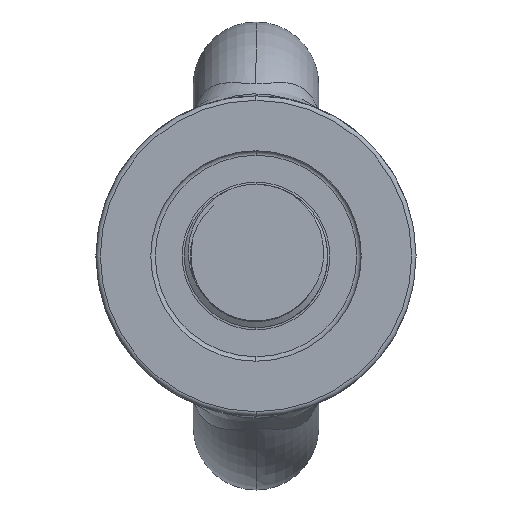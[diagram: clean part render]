
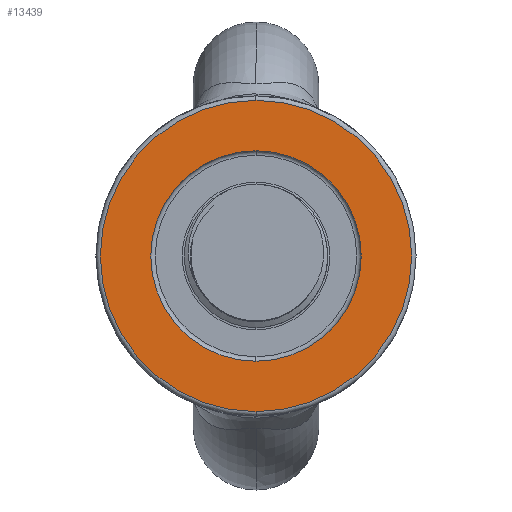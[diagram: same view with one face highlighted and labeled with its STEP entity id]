
A CAD part, left-side view. The second image highlights one B-rep face of the part: STEP entity #13439.
In plain terms, the highlighted planar face has unit normal (-1, 0, 0).
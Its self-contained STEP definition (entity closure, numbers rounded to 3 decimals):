
#96 = CARTESIAN_POINT ( 'NONE',  ( 0., 0., 0. ) ) ;
#97 = DIRECTION ( 'NONE',  ( -1., 0., 0. ) ) ;
#98 = DIRECTION ( 'NONE',  ( 0., 0., -1. ) ) ;
#328 = CARTESIAN_POINT ( 'NONE',  ( 0., 0., 0. ) ) ;
#329 = DIRECTION ( 'NONE',  ( -1., 0., 0. ) ) ;
#330 = DIRECTION ( 'NONE',  ( 0., 0., 1. ) ) ;
#476 = CARTESIAN_POINT ( 'NONE',  ( 0., 0., -71.5 ) ) ;
#482 = PLANE ( 'NONE',  #13706 ) ;
#484 = DIRECTION ( 'NONE',  ( 1., 0., 0. ) ) ;
#485 = DIRECTION ( 'NONE',  ( 0., 0., -1. ) ) ;
#789 = VERTEX_POINT ( 'NONE', #13213 ) ;
#790 = VERTEX_POINT ( 'NONE', #13214 ) ;
#818 = VERTEX_POINT ( 'NONE', #13242 ) ;
#819 = VERTEX_POINT ( 'NONE', #13243 ) ;
#1194 = AXIS2_PLACEMENT_3D ( 'NONE', #10648, #10649, #10650 ) ;
#1195 = AXIS2_PLACEMENT_3D ( 'NONE', #10651, #10652, #10653 ) ;
#9633 = CIRCLE ( 'NONE', #1194, 69.5 ) ;
#9636 = CIRCLE ( 'NONE', #1195, 47. ) ;
#10648 = CARTESIAN_POINT ( 'NONE',  ( 0., 0., 0. ) ) ;
#10649 = DIRECTION ( 'NONE',  ( -1., 0., 0. ) ) ;
#10650 = DIRECTION ( 'NONE',  ( 0., 0., -1. ) ) ;
#10651 = CARTESIAN_POINT ( 'NONE',  ( 0., 0., 0. ) ) ;
#10652 = DIRECTION ( 'NONE',  ( -1., 0., 0. ) ) ;
#10653 = DIRECTION ( 'NONE',  ( 0., 0., 1. ) ) ;
#13126 = EDGE_CURVE ( 'NONE', #789, #790, #14099, .T. ) ;
#13142 = EDGE_CURVE ( 'NONE', #819, #818, #14112, .T. ) ;
#13213 = CARTESIAN_POINT ( 'NONE',  ( 0., 0., 69.5 ) ) ;
#13214 = CARTESIAN_POINT ( 'NONE',  ( 0., 0., -69.5 ) ) ;
#13242 = CARTESIAN_POINT ( 'NONE',  ( 0., 0., 47. ) ) ;
#13243 = CARTESIAN_POINT ( 'NONE',  ( 0., 0., -47. ) ) ;
#13439 = ADVANCED_FACE ( 'NONE', ( #14212, #14215 ), #482, .F. ) ;
#13596 = EDGE_CURVE ( 'NONE', #790, #789, #9633, .T. ) ;
#13597 = EDGE_CURVE ( 'NONE', #818, #819, #9636, .T. ) ;
#13648 = AXIS2_PLACEMENT_3D ( 'NONE', #96, #97, #98 ) ;
#13655 = AXIS2_PLACEMENT_3D ( 'NONE', #328, #329, #330 ) ;
#13706 = AXIS2_PLACEMENT_3D ( 'NONE', #476, #484, #485 ) ;
#13832 = EDGE_LOOP ( 'NONE', ( #13891, #13892 ) ) ;
#13838 = EDGE_LOOP ( 'NONE', ( #13889, #13890 ) ) ;
#13889 = ORIENTED_EDGE ( 'NONE', *, *, #13596, .T. ) ;
#13890 = ORIENTED_EDGE ( 'NONE', *, *, #13126, .T. ) ;
#13891 = ORIENTED_EDGE ( 'NONE', *, *, #13597, .F. ) ;
#13892 = ORIENTED_EDGE ( 'NONE', *, *, #13142, .F. ) ;
#14099 = CIRCLE ( 'NONE', #13648, 69.5 ) ;
#14112 = CIRCLE ( 'NONE', #13655, 47. ) ;
#14212 = FACE_OUTER_BOUND ( 'NONE', #13838, .T. ) ;
#14215 = FACE_BOUND ( 'NONE', #13832, .T. ) ;
